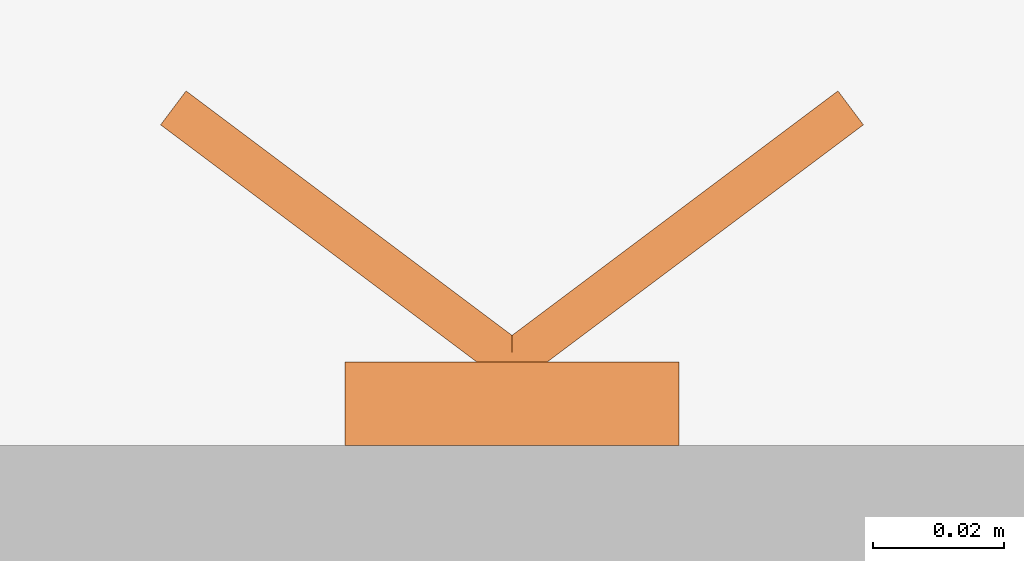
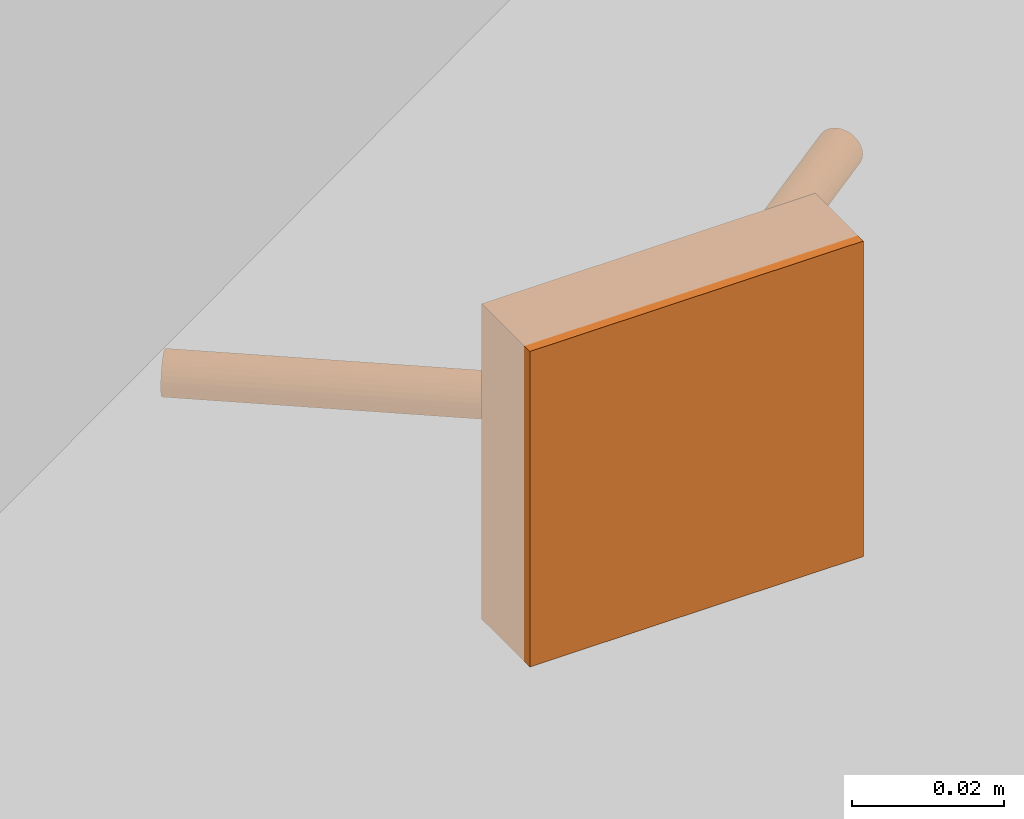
# One storey, part 78 of 142: 1 proxy.
"""IFC2X3 building model written with IfcOpenShell, lengths in feet."""

import ifcopenshell
import ifcopenshell.guid

model = None  # the IFC model being written
_history = None  # IfcOwnerHistory: only IFC2X3 demands one
_inside = {}  # id of a spatial element -> (the spatial element, [elements in it])
_under = {}  # id of a project, library or spatial element -> (it, [spatial elements below it])
_declared = {}  # id of a project -> (the project, [libraries it declares])
_typed = {}  # id of a type object -> (the type object, [elements of that type])
_made_of = {}  # id of a material, layer set ... -> (it, [elements and type objects made of it])


def new_model(schema):
    """Start an empty IFC model of exactly this schema.

    Asked for "IFC4X3", IfcOpenShell would pick the latest addendum, in which some entities
    have other attributes; the version numbers below select the first issue.
    IFC2X3 requires an IfcOwnerHistory on every rooted entity: one is made here for all.
    """
    global model, _history
    if schema == "IFC4X3":
        model = ifcopenshell.file(schema_version=(4, 3, 0, 0))
    else:
        model = ifcopenshell.file(schema=schema)
    _inside.clear()
    _under.clear()
    _declared.clear()
    _typed.clear()
    _made_of.clear()
    _history = None
    if model.schema == "IFC2X3":
        org = make("IfcOrganization", Name="unknown")
        user = make(
            "IfcPersonAndOrganization",
            ThePerson=make("IfcPerson", FamilyName="unknown"),
            TheOrganization=org,
        )
        app = make(
            "IfcApplication",
            ApplicationDeveloper=org,
            Version="unknown",
            ApplicationFullName="unknown",
            ApplicationIdentifier="unknown",
        )
        _history = make(
            "IfcOwnerHistory",
            OwningUser=user,
            OwningApplication=app,
            ChangeAction="ADDED",
            CreationDate=0,
        )
    return model


def make(cls, **values):
    """One entity of the class cls with the attributes given. An attribute that is None is left unset."""
    return model.create_entity(
        cls, **{name: value for name, value in values.items() if value is not None}
    )


def entity(cls, *values):
    """Any entity or typed value of the class cls, its attributes in the order of the schema. None: left unset."""
    e = model.create_entity(cls)
    for i, value in enumerate(values):
        if value is not None:
            e[i] = value
    return e


def rooted(cls, **values):
    """An entity with a GlobalId (a new one), such as an element, a storey or a relation."""
    return make(cls, GlobalId=ifcopenshell.guid.new(), OwnerHistory=_history, **values)


def si_unit(unit_type, name, prefix=None):
    """IfcSIUnit, for example si_unit("LENGTHUNIT", "METRE", prefix="MILLI")."""
    return make("IfcSIUnit", UnitType=unit_type, Prefix=prefix, Name=name)


def converted_unit(unit_type, name, factor, base, dimensions=None, offset=None):
    """IfcConversionBasedUnit, such as the inch: factor (a typed value) times the base unit."""
    return make(
        "IfcConversionBasedUnit"
        if offset is None
        else "IfcConversionBasedUnitWithOffset",
        ConversionOffset=offset,
        Dimensions=None
        if dimensions is None
        else entity("IfcDimensionalExponents", *dimensions),
        UnitType=unit_type,
        Name=name,
        ConversionFactor=make(
            "IfcMeasureWithUnit", ValueComponent=factor, UnitComponent=base
        ),
    )


def derived_unit(unit_type, elements):
    """IfcDerivedUnit: a product of units, each with its exponent."""
    return make(
        "IfcDerivedUnit",
        Elements=[
            make("IfcDerivedUnitElement", Unit=unit, Exponent=power)
            for unit, power in elements
        ],
        UnitType=unit_type,
    )


def assignment(units):
    """IfcUnitAssignment: the units of a project."""
    return None if units is None else make("IfcUnitAssignment", Units=units)


def point(xyz):
    """IfcCartesianPoint."""
    return None if xyz is None else make("IfcCartesianPoint", Coordinates=xyz)


def direction(xyz):
    """IfcDirection."""
    return None if xyz is None else make("IfcDirection", DirectionRatios=xyz)


def frame(location, z_axis=None, x_axis=None):
    """IfcAxis2Placement3D, a coordinate frame: its origin and axes. An axis left out is left unset."""
    return make(
        "IfcAxis2Placement3D",
        Location=point(location),
        Axis=direction(z_axis),
        RefDirection=direction(x_axis),
    )


def frame_2d(location, x_axis=None):
    """IfcAxis2Placement2D, a coordinate frame in the plane: its origin and x axis."""
    return make(
        "IfcAxis2Placement2D", Location=point(location), RefDirection=direction(x_axis)
    )


def origin():
    """The frame at (0, 0, 0) with its axes left unset."""
    return frame((0.0, 0.0, 0.0))


def origin_2d_with_axis():
    """The frame at (0, 0) in the plane with the x axis (1, 0) written out."""
    return frame_2d((0.0, 0.0), x_axis=(1.0, 0.0))


def place(relative_to, where):
    """IfcLocalPlacement: puts the frame where relative to a parent placement (None: the world)."""
    return make(
        "IfcLocalPlacement", PlacementRelTo=relative_to, RelativePlacement=where
    )


def context(
    kind, dimensions, precision=None, world=None, true_north=None, identifier=None
):
    """IfcGeometricRepresentationContext, for example the 3D "Model" context."""
    return make(
        "IfcGeometricRepresentationContext",
        ContextIdentifier=identifier,
        ContextType=kind,
        CoordinateSpaceDimension=dimensions,
        Precision=precision,
        WorldCoordinateSystem=world,
        TrueNorth=true_north,
    )


def subcontext(parent, identifier, kind, view, scale=None):
    """IfcGeometricRepresentationSubContext, for example "Body" below "Model"."""
    return make(
        "IfcGeometricRepresentationSubContext",
        ContextIdentifier=identifier,
        ContextType=kind,
        ParentContext=parent,
        TargetScale=scale,
        TargetView=view,
    )


def project(units=None, contexts=None):
    """IfcProject with its units and contexts."""
    return rooted(
        "IfcProject",
        Name="project",
        RepresentationContexts=contexts,
        UnitsInContext=assignment(units),
    )


def spatial(cls, under=None, at=None, **own):
    """A site, building, storey or space (cls), placed at a placement, below another one or the project."""
    s = rooted(cls, ObjectPlacement=at, **own)
    if under is not None:
        _under.setdefault(under.id(), (under, []))[1].append(s)
    return s


def profile(cls, at=None, kind="AREA", **sizes):
    """A parametric profile (cls). Its sizes go by their IFC names, for example OverallWidth=200.0."""
    return make(cls, ProfileType=kind, Position=at, **sizes)


def rectangle(**sizes):
    """IfcRectangleProfileDef."""
    return profile("IfcRectangleProfileDef", **sizes)


def circle(**sizes):
    """IfcCircleProfileDef."""
    return profile("IfcCircleProfileDef", **sizes)


def extrude(swept, where, along, depth):
    """IfcExtrudedAreaSolid: the profile swept, set in the frame where, extruded along a direction by depth."""
    return make(
        "IfcExtrudedAreaSolid",
        SweptArea=swept,
        Position=where,
        ExtrudedDirection=direction(along),
        Depth=depth,
    )


def shape(context_of_items, identifier, shape_type, items):
    """IfcShapeRepresentation: the items that make up one representation, for example the "Body"."""
    return make(
        "IfcShapeRepresentation",
        ContextOfItems=context_of_items,
        RepresentationIdentifier=identifier,
        RepresentationType=shape_type,
        Items=items,
    )


def source(mapping_origin, context_of_items, identifier, shape_type, items):
    """IfcRepresentationMap: a shape defined once, which mapped items show again and again."""
    return make(
        "IfcRepresentationMap",
        MappingOrigin=mapping_origin,
        MappedRepresentation=shape(context_of_items, identifier, shape_type, items),
    )


def transform(
    local_origin,
    x_axis=None,
    y_axis=None,
    z_axis=None,
    scale=None,
    scale2=None,
    scale3=None,
    uniform=True,
):
    """IfcCartesianTransformationOperator3D, or its non-uniform kind. x_axis, y_axis, z_axis: its Axis1, 2, 3."""
    if uniform:
        return make(
            "IfcCartesianTransformationOperator3D",
            Axis1=direction(x_axis),
            Axis2=direction(y_axis),
            LocalOrigin=point(local_origin),
            Scale=scale,
            Axis3=direction(z_axis),
        )
    return make(
        "IfcCartesianTransformationOperator3DnonUniform",
        Axis1=direction(x_axis),
        Axis2=direction(y_axis),
        LocalOrigin=point(local_origin),
        Scale=scale,
        Axis3=direction(z_axis),
        Scale2=scale2,
        Scale3=scale3,
    )


def mapped(mapping_source, mapping_target):
    """IfcMappedItem: shows the shape of a source again, moved by a transform."""
    return make(
        "IfcMappedItem", MappingSource=mapping_source, MappingTarget=mapping_target
    )


def made_of(thing, what):
    """Note that an element or type object is made of a material, layer set ...; save() writes the relation."""
    if what is not None:
        _made_of.setdefault(what.id(), (what, []))[1].append(thing)
    return thing


def type_object(cls, material=None, **own):
    """A type object (cls), such as IfcWallType, which elements share."""
    return made_of(rooted(cls, **own), material)


def type_shapes(of_type, sources):
    """Give a type object the sources (RepresentationMaps) that its elements show as mapped items."""
    of_type.RepresentationMaps = sources


def element(
    cls,
    number,
    at=None,
    inside=None,
    cuts=None,
    type_object=None,
    material=None,
    context=None,
    identifier="Body",
    shape_type=None,
    held_by="IfcProductDefinitionShape",
    body=None,
    shapes=None,
    **own,
):
    """One element of the class cls, such as IfcWall. Its Tag is "e" and its number.

    at: its placement. inside: the storey or other place that contains it. cuts: it is an
    opening in that element (IfcRelVoidsElement). A single representation is given by context,
    identifier, shape_type and body (its items); several are given by shapes. held_by: the class
    of the entity that holds the representations. save() writes the other relations.
    """
    e = rooted(cls, Tag="e%d" % number, ObjectPlacement=at, **own)
    if body is not None:
        shapes = [shape(context, identifier, shape_type, body)]
    if shapes is not None:
        e.Representation = make(held_by, Representations=shapes)
    if inside is not None:
        _inside.setdefault(inside.id(), (inside, []))[1].append(e)
    if cuts is not None:
        rooted(
            "IfcRelVoidsElement", RelatingBuildingElement=cuts, RelatedOpeningElement=e
        )
    if type_object is not None:
        _typed.setdefault(type_object.id(), (type_object, []))[1].append(e)
    return made_of(e, material)


def aggregate(whole, parts):
    """IfcRelAggregates: a whole, such as a stair, and the parts it consists of."""
    return rooted("IfcRelAggregates", RelatingObject=whole, RelatedObjects=parts)


def save(model, path):
    """Write the relations noted so far, then the file.

    IfcRelAggregates (storeys below a building ...), IfcRelContainedInSpatialStructure (elements
    in a storey), IfcRelDefinesByType, IfcRelAssociatesMaterial and IfcRelDeclares: one each for
    every whole, place, type object, material and project.
    """
    for whole, parts in _under.values():
        aggregate(whole, parts)
    for where, things in _inside.values():
        rooted(
            "IfcRelContainedInSpatialStructure",
            RelatedElements=things,
            RelatingStructure=where,
        )
    for kind, things in _typed.values():
        rooted("IfcRelDefinesByType", RelatedObjects=things, RelatingType=kind)
    for what, things in _made_of.values():
        rooted("IfcRelAssociatesMaterial", RelatedObjects=things, RelatingMaterial=what)
    for by, libraries in _declared.values():
        rooted("IfcRelDeclares", RelatingContext=by, RelatedDefinitions=libraries)
    model.write(path)


model = new_model("IFC2X3")

# Units and contexts
model_context = context("Model", 3, precision=0.0001, world=origin(), true_north=direction((6.12303176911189e-17, 1.0)))
body_context = subcontext(model_context, "Body", "Model", "MODEL_VIEW")
ifc_project = project(units=[converted_unit("LENGTHUNIT", "FOOT", entity("IfcRatioMeasure", 0.3048), si_unit("LENGTHUNIT", "METRE"), dimensions=[1, 0, 0, 0, 0, 0, 0]), converted_unit("AREAUNIT", "SQUARE FOOT", entity("IfcRatioMeasure", 0.09290304), si_unit("AREAUNIT", "SQUARE_METRE"), dimensions=[2, 0, 0, 0, 0, 0, 0]), converted_unit("VOLUMEUNIT", "CUBIC FOOT", entity("IfcRatioMeasure", 0.028316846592), si_unit("VOLUMEUNIT", "CUBIC_METRE"), dimensions=[3, 0, 0, 0, 0, 0, 0]), converted_unit("PLANEANGLEUNIT", "DEGREE", entity("IfcRatioMeasure", 0.0174532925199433), si_unit("PLANEANGLEUNIT", "RADIAN"), dimensions=[0, 0, 0, 0, 0, 0, 0]), si_unit("MASSUNIT", "GRAM", prefix="KILO"), derived_unit("MASSDENSITYUNIT", [(si_unit("MASSUNIT", "GRAM", prefix="KILO"), 1), (si_unit("LENGTHUNIT", "METRE"), -3)]), si_unit("TIMEUNIT", "SECOND"), si_unit("FREQUENCYUNIT", "HERTZ"), si_unit("THERMODYNAMICTEMPERATUREUNIT", "DEGREE_CELSIUS"), derived_unit("THERMALTRANSMITTANCEUNIT", [(si_unit("MASSUNIT", "GRAM", prefix="KILO"), 1), (si_unit("THERMODYNAMICTEMPERATUREUNIT", "KELVIN"), -1), (si_unit("TIMEUNIT", "SECOND"), -3)]), derived_unit("VOLUMETRICFLOWRATEUNIT", [(si_unit("LENGTHUNIT", "METRE"), 3), (si_unit("TIMEUNIT", "SECOND"), -1)]), si_unit("ELECTRICCURRENTUNIT", "AMPERE"), si_unit("ELECTRICVOLTAGEUNIT", "VOLT"), si_unit("POWERUNIT", "WATT"), si_unit("FORCEUNIT", "NEWTON"), si_unit("ILLUMINANCEUNIT", "LUX"), si_unit("LUMINOUSFLUXUNIT", "LUMEN"), si_unit("LUMINOUSINTENSITYUNIT", "CANDELA"), derived_unit("USERDEFINED", [(si_unit("MASSUNIT", "GRAM", prefix="KILO"), -1), (si_unit("LENGTHUNIT", "METRE"), -2), (si_unit("TIMEUNIT", "SECOND"), 3), (si_unit("LUMINOUSFLUXUNIT", "LUMEN"), 1)]), derived_unit("LINEARVELOCITYUNIT", [(si_unit("LENGTHUNIT", "METRE"), 1), (si_unit("TIMEUNIT", "SECOND"), -1)]), si_unit("PRESSUREUNIT", "PASCAL"), derived_unit("USERDEFINED", [(si_unit("LENGTHUNIT", "METRE"), -2), (si_unit("MASSUNIT", "GRAM", prefix="KILO"), 1), (si_unit("TIMEUNIT", "SECOND"), -2)])], contexts=[model_context])

# Site, building, storey, space
site_placement = place(None, origin())
site = spatial("IfcSite", under=ifc_project, at=site_placement, Name="Default", CompositionType="ELEMENT")
building_placement = place(site_placement, origin())
building = spatial("IfcBuilding", under=site, at=building_placement, Name="OUTPATIENT / PACT CLINIC (Ch. 265)", CompositionType="ELEMENT")
storey_placement = place(building_placement, origin())
storey = spatial("IfcBuildingStorey", under=building, at=storey_placement, Name="LEVEL 1", CompositionType="ELEMENT", Elevation=0.0)
space_placement = place(storey_placement, origin())
space = spatial("IfcSpace", under=storey, at=space_placement, Name="EXPA01", CompositionType="ELEMENT", InteriorOrExteriorSpace="INTERNAL")

# Proxy
building_element_proxy_type = type_object("IfcBuildingElementProxyType", Name="A5145 - Hook, Garment, Double", PredefinedType="NOTDEFINED")
shared_shape = source(origin(), body_context, "Body", "SweptSolid", [
    extrude(circle(Radius=0.0105952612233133, at=frame_2d((-1.64551454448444e-31, -4.16333634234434e-17), x_axis=(1.0, 0.0))), frame((-0.169086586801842, -0.168481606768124, 0.0833333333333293), z_axis=(0.799999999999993, 0.60000000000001, 0.0), x_axis=(0.60000000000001, -0.799999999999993, 0.0)), (0.0, 0.0, 1.0), 0.211358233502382),
    extrude(circle(Radius=0.0105952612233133, at=frame_2d((5.2041704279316e-19, 2.77555756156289e-17), x_axis=(1.0, 0.0))), frame((0.0, -0.0416666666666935, 0.083333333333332), z_axis=(0.799999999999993, -0.60000000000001, 0.0), x_axis=(-0.60000000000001, -0.799999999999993, 0.0)), (0.0, 0.0, 1.0), 0.211358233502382),
    extrude(rectangle(XDim=0.0416666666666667, YDim=0.166666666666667, at=origin_2d_with_axis()), frame((0.0, -0.0208333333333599, 0.0), z_axis=(0.0, 0.0, 1.0), x_axis=(0.0, 1.0, 0.0)), (0.0, 0.0, 1.0), 0.166666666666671),
])
type_shapes(building_element_proxy_type, [shared_shape])
proxy_placement = place(space_placement, frame((401.952893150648, -931.441351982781, 4.0), z_axis=(0.0, 0.0, 1.0), x_axis=(-1.0, 0.0, 0.0)))
element("IfcBuildingElementProxy", 1, at=proxy_placement, inside=space, type_object=building_element_proxy_type, Name="A5145 - Hook, Garment, Double:A5145 - Hook, Garment, Double", ObjectType="A5145 - Hook, Garment, Double", context=body_context, shape_type="MappedRepresentation", body=[
    mapped(shared_shape, transform((0.0, 0.0, 0.0), scale=1.0)),
])

save(model, "model.ifc")
